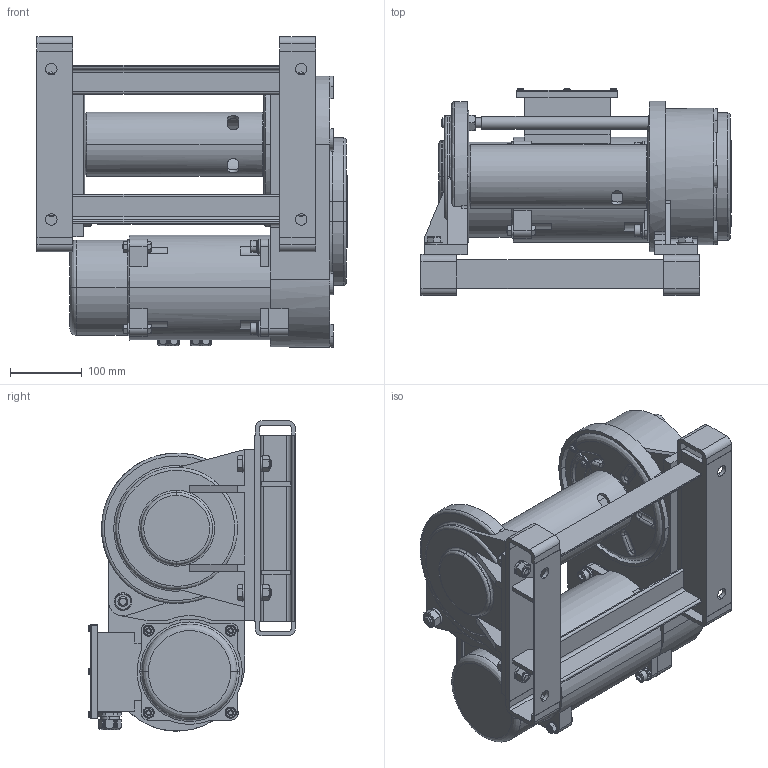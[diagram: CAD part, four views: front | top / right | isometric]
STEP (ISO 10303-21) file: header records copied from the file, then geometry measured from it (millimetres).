
FILE_DESCRIPTION( (''), '2;1');
FILE_NAME ('BMW-201.stp','2023-05-12T15:18:55',(''),(''),'spGate 19.8.2 (****-****-****-****)','','');
FILE_SCHEMA (('AUTOMOTIVE_DESIGN'));
Length unit declared in the file: millimetre
Products named in the file (7): Assembly; BMW-201-prt0; BMW-201-prt1; BMW-201-prt2; BMW-201-prt3; BMW-201-prt4; BMW-201-prt5
Assembly tree (6 placements, depth 2):
  Assembly
    BMW-201-prt0
    BMW-201-prt1
    BMW-201-prt2
    BMW-201-prt3
    BMW-201-prt4
    BMW-201-prt5
Bounding box: 433 x 290.2 x 433.3 mm (x, y, z)
Volume: 14563279.8 mm3; surface area: 1256649.9 mm2
Topology: 1 solids, 1 shells, 2089 faces, 5413 edges, 3413 vertices
Faces by surface type: plane 1190, cylinder 556, bspline 303, sphere 40
Entity records: 112859 total; most frequent: CARTESIAN_POINT 20188, ORIENTED_EDGE 10754, DIRECTION 10134, COLOUR_RGB 7472, PRESENTATION_STYLE_ASSIGNMENT 7472, STYLED_ITEM 7472, EDGE_CURVE 5377, DRAUGHTING_PRE_DEFINED_CURVE_FONT 5377
